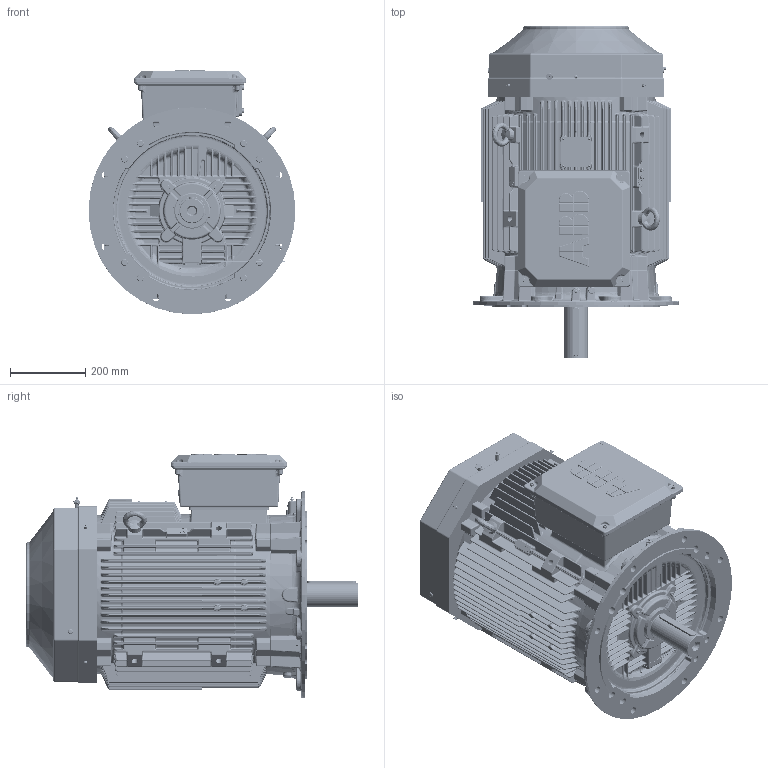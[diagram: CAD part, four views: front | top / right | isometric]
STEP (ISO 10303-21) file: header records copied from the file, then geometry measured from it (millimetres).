
FILE_DESCRIPTION(/* description */ (''),/* implementation_level */ '2;1');
FILE_NAME(/* name */ '3GZF500025-653.stp',/* time_stamp */ '2018-11-05T14:03:05+02:00',/* author */ (''),/* organization */ (''),/* preprocessor_version */ 'ST-DEVELOPER v16',/* originating_system */ 'SIEMENS PLM Software NX 10.0',/* authorisation */ '');
FILE_SCHEMA (('AUTOMOTIVE_DESIGN { 1 0 10303 214 3 1 1 1 }'));
Products named in the file (1): FIJA7AC4B024pljs
Bounding box: 551.18 x 884 x 651.31 mm (x, y, z)
Volume: 127457048.9 mm3; surface area: 3930513.1 mm2
Topology: 1 solids, 22 shells, 12196 faces, 28845 edges, 16721 vertices
Faces by surface type: plane 4227, bspline 3941, cylinder 2870, sphere 492, cone 380, torus 280, revolution 6
Full cylindrical faces by diameter (mm): 3 x1, 5 x1, 5.1 x1, 5.4 x1, 6 x14, 6.4 x4, 7 x2, 8 x3, 10 x15, 11 x2, 11.922 x4, 12 x20, 13 x4, 13.5 x8, 16 x8, 17 x4, 18 x8, 19 x8, 20 x8, 21 x1, 24 x2, 64.4 x1, 65 x1, 90.013 x2, 95 x1, 280.294 x1, 418 x1, 424 x2
Entity records: 439596 total; most frequent: CARTESIAN_POINT 191952, ORIENTED_EDGE 55866, DIRECTION 41333, EDGE_CURVE 27933, VERTEX_POINT 16650, AXIS2_PLACEMENT_3D 14466, EDGE_LOOP 13153, LINE 12395
